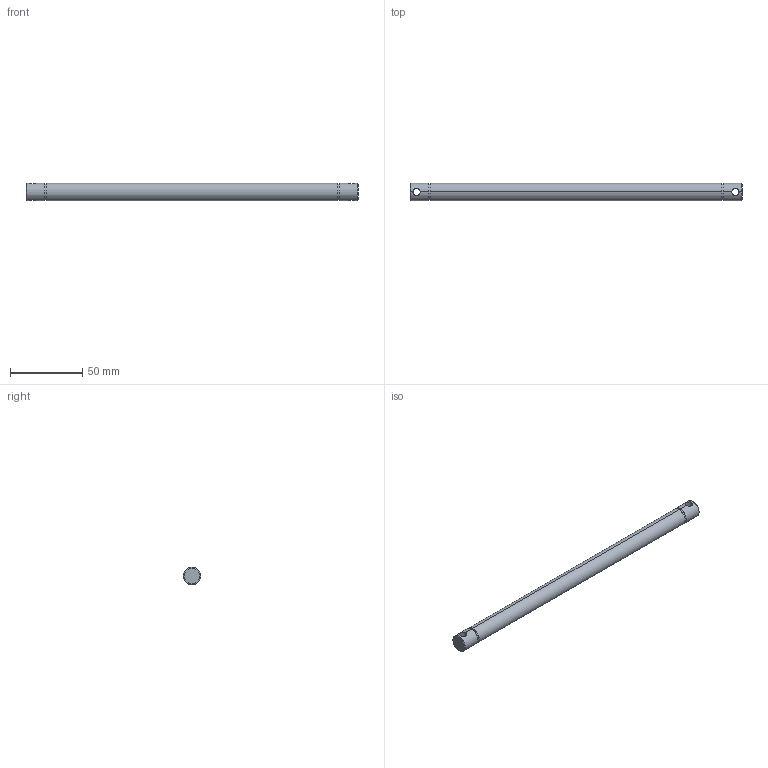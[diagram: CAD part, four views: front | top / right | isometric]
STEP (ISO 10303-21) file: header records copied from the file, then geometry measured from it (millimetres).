
FILE_DESCRIPTION (( 'STEP AP214' ), '1' );
FILE_NAME ('084.801.020.185.STEP', '2021-02-05T15:57:14', ( '' ), ( '' ), 'SwSTEP 2.0', 'SolidWorks 2018', '' );
FILE_SCHEMA (( 'AUTOMOTIVE_DESIGN' ));
Length unit declared in the file: millimetre
Products named in the file (1): 084.801.020.185
Bounding box: 229 x 12 x 12 mm (x, y, z)
Volume: 25409 mm3; surface area: 9149.7 mm2
Topology: 1 solids, 1 shells, 24 faces, 54 edges, 32 vertices
Faces by surface type: cylinder 14, plane 6, cone 4
Entity records: 976 total; most frequent: CARTESIAN_POINT 351, DIRECTION 120, ORIENTED_EDGE 108, EDGE_CURVE 54, AXIS2_PLACEMENT_3D 49, VERTEX_POINT 32, EDGE_LOOP 28, FACE_OUTER_BOUND 24
